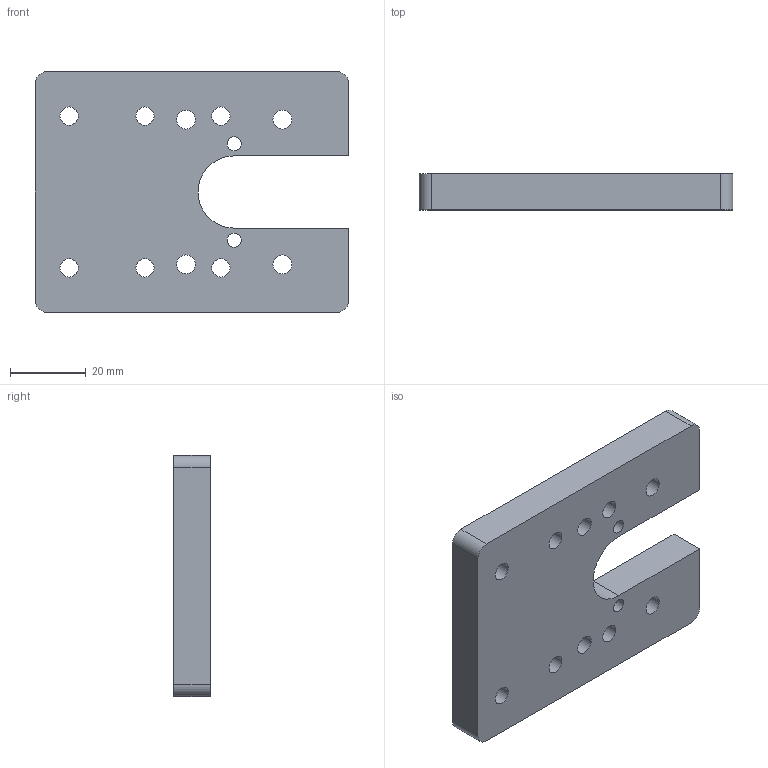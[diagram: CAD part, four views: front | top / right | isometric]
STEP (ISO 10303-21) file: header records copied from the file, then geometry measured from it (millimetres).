
FILE_DESCRIPTION( ( 'Unknown' ), '1' );
FILE_NAME( 'S:/A & P Tool/Start Button Swivel Mount/PDF - STP - IGES master files/AFSB-580-B-VS.stp', 'Unknown', ( 'Unknown' ), ( 'Unknown' ), 'PSStep 16.0.42', 'Unknown', ' ' );
FILE_SCHEMA( ( 'AUTOMOTIVE_DESIGN { 1 0 10303 214 1 1 1 1 }' ) );
Length unit declared in the file: millimetre
Products named in the file (1): 1
Bounding box: 82.55 x 9.53 x 63.5 mm (x, y, z)
Volume: 40137.1 mm3; surface area: 13979.6 mm2
Topology: 1 solids, 1 shells, 38 faces, 96 edges, 66 vertices
Faces by surface type: cylinder 23, plane 15
Full cylindrical faces by diameter (mm): 3.68 x2, 4.8 x6, 4.976 x4, 8.25 x6
Entity records: 1398 total; most frequent: DIRECTION 196, CARTESIAN_POINT 171, ORIENTED_EDGE 144, EDGE_LOOP 86, AXIS2_PLACEMENT_3D 85, EDGE_CURVE 72, VERTEX_POINT 60, FACE_OUTER_BOUND 56
